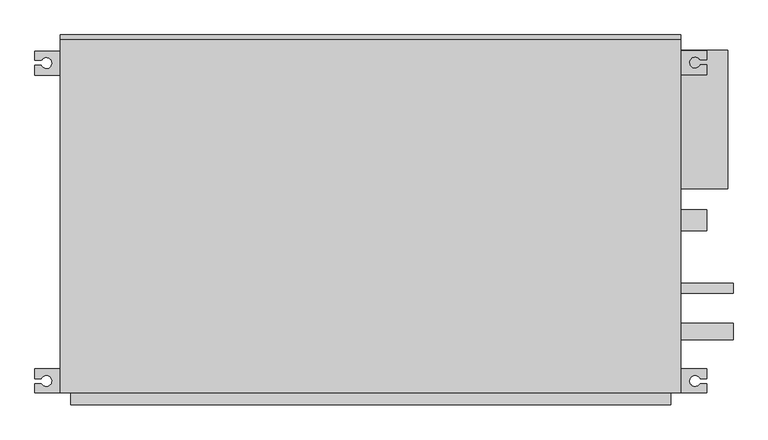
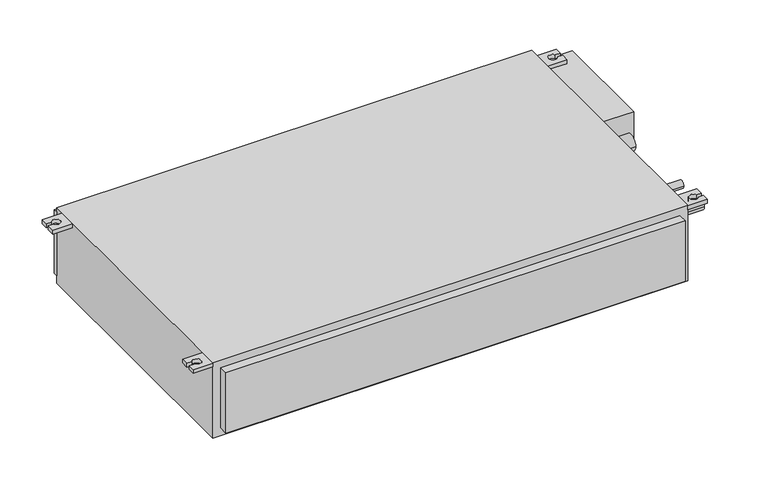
"""IFC4 building model written with IfcOpenShell, lengths in millimetres: proxy geometry, PEFY-P-NMSU-E_Low_Profile_Ducted : PEFY-P24NMSU-E."""

import ifcopenshell
import ifcopenshell.guid

model = None  # the IFC model being written
_history = None  # IfcOwnerHistory: only IFC2X3 demands one
_inside = {}  # id of a spatial element -> (the spatial element, [elements in it])
_under = {}  # id of a project, library or spatial element -> (it, [spatial elements below it])
_declared = {}  # id of a project -> (the project, [libraries it declares])
_typed = {}  # id of a type object -> (the type object, [elements of that type])
_made_of = {}  # id of a material, layer set ... -> (it, [elements and type objects made of it])


def new_model(schema):
    """Start an empty IFC model of exactly this schema.

    Asked for "IFC4X3", IfcOpenShell would pick the latest addendum, in which some entities
    have other attributes; the version numbers below select the first issue.
    IFC2X3 requires an IfcOwnerHistory on every rooted entity: one is made here for all.
    """
    global model, _history
    if schema == "IFC4X3":
        model = ifcopenshell.file(schema_version=(4, 3, 0, 0))
    else:
        model = ifcopenshell.file(schema=schema)
    _inside.clear()
    _under.clear()
    _declared.clear()
    _typed.clear()
    _made_of.clear()
    _history = None
    if model.schema == "IFC2X3":
        org = make("IfcOrganization", Name="unknown")
        user = make(
            "IfcPersonAndOrganization",
            ThePerson=make("IfcPerson", FamilyName="unknown"),
            TheOrganization=org,
        )
        app = make(
            "IfcApplication",
            ApplicationDeveloper=org,
            Version="unknown",
            ApplicationFullName="unknown",
            ApplicationIdentifier="unknown",
        )
        _history = make(
            "IfcOwnerHistory",
            OwningUser=user,
            OwningApplication=app,
            ChangeAction="ADDED",
            CreationDate=0,
        )
    return model


def make(cls, **values):
    """One entity of the class cls with the attributes given. An attribute that is None is left unset."""
    return model.create_entity(
        cls, **{name: value for name, value in values.items() if value is not None}
    )


def rooted(cls, **values):
    """An entity with a GlobalId (a new one), such as an element, a storey or a relation."""
    return make(cls, GlobalId=ifcopenshell.guid.new(), OwnerHistory=_history, **values)


def si_unit(unit_type, name, prefix=None):
    """IfcSIUnit, for example si_unit("LENGTHUNIT", "METRE", prefix="MILLI")."""
    return make("IfcSIUnit", UnitType=unit_type, Prefix=prefix, Name=name)


def assignment(units):
    """IfcUnitAssignment: the units of a project."""
    return None if units is None else make("IfcUnitAssignment", Units=units)


def point(xyz):
    """IfcCartesianPoint."""
    return None if xyz is None else make("IfcCartesianPoint", Coordinates=xyz)


def direction(xyz):
    """IfcDirection."""
    return None if xyz is None else make("IfcDirection", DirectionRatios=xyz)


def frame(location, z_axis=None, x_axis=None):
    """IfcAxis2Placement3D, a coordinate frame: its origin and axes. An axis left out is left unset."""
    return make(
        "IfcAxis2Placement3D",
        Location=point(location),
        Axis=direction(z_axis),
        RefDirection=direction(x_axis),
    )


def frame_2d(location, x_axis=None):
    """IfcAxis2Placement2D, a coordinate frame in the plane: its origin and x axis."""
    return make(
        "IfcAxis2Placement2D", Location=point(location), RefDirection=direction(x_axis)
    )


def origin():
    """The frame at (0, 0, 0) with its axes left unset."""
    return frame((0.0, 0.0, 0.0))


def origin_with_axes():
    """The frame at (0, 0, 0) with the z axis (0, 0, 1) and the x axis (1, 0, 0) written out."""
    return frame((0.0, 0.0, 0.0), z_axis=(0.0, 0.0, 1.0), x_axis=(1.0, 0.0, 0.0))


def place(relative_to, where):
    """IfcLocalPlacement: puts the frame where relative to a parent placement (None: the world)."""
    return make(
        "IfcLocalPlacement", PlacementRelTo=relative_to, RelativePlacement=where
    )


def context(
    kind, dimensions, precision=None, world=None, true_north=None, identifier=None
):
    """IfcGeometricRepresentationContext, for example the 3D "Model" context."""
    return make(
        "IfcGeometricRepresentationContext",
        ContextIdentifier=identifier,
        ContextType=kind,
        CoordinateSpaceDimension=dimensions,
        Precision=precision,
        WorldCoordinateSystem=world,
        TrueNorth=true_north,
    )


def project(units=None, contexts=None):
    """IfcProject with its units and contexts."""
    return rooted(
        "IfcProject",
        Name="project",
        RepresentationContexts=contexts,
        UnitsInContext=assignment(units),
    )


def spatial(cls, under=None, at=None, **own):
    """A site, building, storey or space (cls), placed at a placement, below another one or the project."""
    s = rooted(cls, ObjectPlacement=at, **own)
    if under is not None:
        _under.setdefault(under.id(), (under, []))[1].append(s)
    return s


def polyline(points):
    """IfcPolyline through the points."""
    return make("IfcPolyline", Points=[point(p) for p in points])


def circle_curve(where, radius):
    """IfcCircle in the frame where."""
    return make("IfcCircle", Position=where, Radius=radius)


def trimmed(basis, trim1, trim2, sense, master):
    """IfcTrimmedCurve: the piece of a basis curve between two trims."""
    return make(
        "IfcTrimmedCurve",
        BasisCurve=basis,
        Trim1=trim1,
        Trim2=trim2,
        SenseAgreement=sense,
        MasterRepresentation=master,
    )


def segment(curve, same_sense, transition):
    """IfcCompositeCurveSegment."""
    return make(
        "IfcCompositeCurveSegment",
        Transition=transition,
        SameSense=same_sense,
        ParentCurve=curve,
    )


def composite_curve(segments, self_intersect=None):
    """IfcCompositeCurve: segments joined end to end."""
    return make("IfcCompositeCurve", Segments=segments, SelfIntersect=self_intersect)


def outline(outer, holes=None, kind="AREA"):
    """IfcArbitraryClosedProfileDef: a profile drawn as a closed curve; with holes, ...WithVoids."""
    if holes is None:
        return make("IfcArbitraryClosedProfileDef", ProfileType=kind, OuterCurve=outer)
    return make(
        "IfcArbitraryProfileDefWithVoids",
        ProfileType=kind,
        OuterCurve=outer,
        InnerCurves=holes,
    )


def extrude(swept, where, along, depth):
    """IfcExtrudedAreaSolid: the profile swept, set in the frame where, extruded along a direction by depth."""
    return make(
        "IfcExtrudedAreaSolid",
        SweptArea=swept,
        Position=where,
        ExtrudedDirection=direction(along),
        Depth=depth,
    )


def shape(context_of_items, identifier, shape_type, items):
    """IfcShapeRepresentation: the items that make up one representation, for example the "Body"."""
    return make(
        "IfcShapeRepresentation",
        ContextOfItems=context_of_items,
        RepresentationIdentifier=identifier,
        RepresentationType=shape_type,
        Items=items,
    )


def source(mapping_origin, context_of_items, identifier, shape_type, items):
    """IfcRepresentationMap: a shape defined once, which mapped items show again and again."""
    return make(
        "IfcRepresentationMap",
        MappingOrigin=mapping_origin,
        MappedRepresentation=shape(context_of_items, identifier, shape_type, items),
    )


def transform(
    local_origin,
    x_axis=None,
    y_axis=None,
    z_axis=None,
    scale=None,
    scale2=None,
    scale3=None,
    uniform=True,
):
    """IfcCartesianTransformationOperator3D, or its non-uniform kind. x_axis, y_axis, z_axis: its Axis1, 2, 3."""
    if uniform:
        return make(
            "IfcCartesianTransformationOperator3D",
            Axis1=direction(x_axis),
            Axis2=direction(y_axis),
            LocalOrigin=point(local_origin),
            Scale=scale,
            Axis3=direction(z_axis),
        )
    return make(
        "IfcCartesianTransformationOperator3DnonUniform",
        Axis1=direction(x_axis),
        Axis2=direction(y_axis),
        LocalOrigin=point(local_origin),
        Scale=scale,
        Axis3=direction(z_axis),
        Scale2=scale2,
        Scale3=scale3,
    )


def mapped(mapping_source, mapping_target):
    """IfcMappedItem: shows the shape of a source again, moved by a transform."""
    return make(
        "IfcMappedItem", MappingSource=mapping_source, MappingTarget=mapping_target
    )


def made_of(thing, what):
    """Note that an element or type object is made of a material, layer set ...; save() writes the relation."""
    if what is not None:
        _made_of.setdefault(what.id(), (what, []))[1].append(thing)
    return thing


def element(
    cls,
    number,
    at=None,
    inside=None,
    cuts=None,
    type_object=None,
    material=None,
    context=None,
    identifier="Body",
    shape_type=None,
    held_by="IfcProductDefinitionShape",
    body=None,
    shapes=None,
    **own,
):
    """One element of the class cls, such as IfcWall. Its Tag is "e" and its number.

    at: its placement. inside: the storey or other place that contains it. cuts: it is an
    opening in that element (IfcRelVoidsElement). A single representation is given by context,
    identifier, shape_type and body (its items); several are given by shapes. held_by: the class
    of the entity that holds the representations. save() writes the other relations.
    """
    e = rooted(cls, Tag="e%d" % number, ObjectPlacement=at, **own)
    if body is not None:
        shapes = [shape(context, identifier, shape_type, body)]
    if shapes is not None:
        e.Representation = make(held_by, Representations=shapes)
    if inside is not None:
        _inside.setdefault(inside.id(), (inside, []))[1].append(e)
    if cuts is not None:
        rooted(
            "IfcRelVoidsElement", RelatingBuildingElement=cuts, RelatedOpeningElement=e
        )
    if type_object is not None:
        _typed.setdefault(type_object.id(), (type_object, []))[1].append(e)
    return made_of(e, material)


def aggregate(whole, parts):
    """IfcRelAggregates: a whole, such as a stair, and the parts it consists of."""
    return rooted("IfcRelAggregates", RelatingObject=whole, RelatedObjects=parts)


def save(model, path):
    """Write the relations noted so far, then the file.

    IfcRelAggregates (storeys below a building ...), IfcRelContainedInSpatialStructure (elements
    in a storey), IfcRelDefinesByType, IfcRelAssociatesMaterial and IfcRelDeclares: one each for
    every whole, place, type object, material and project.
    """
    for whole, parts in _under.values():
        aggregate(whole, parts)
    for where, things in _inside.values():
        rooted(
            "IfcRelContainedInSpatialStructure",
            RelatedElements=things,
            RelatingStructure=where,
        )
    for kind, things in _typed.values():
        rooted("IfcRelDefinesByType", RelatedObjects=things, RelatingType=kind)
    for what, things in _made_of.values():
        rooted("IfcRelAssociatesMaterial", RelatedObjects=things, RelatingMaterial=what)
    for by, libraries in _declared.values():
        rooted("IfcRelDeclares", RelatingContext=by, RelatedDefinitions=libraries)
    model.write(path)


def mechanical_equipment_2ac3c092(model_context):
    return source(origin(), model_context, "Body", "SweptSolid", [
        extrude(outline(composite_curve([segment(polyline([(-644.3, 282.0), (-644.3, 300.9759165), (-632.1454311, 300.9759165)]), True, "CONTINUOUS"), segment(trimmed(circle_curve(frame_2d((-622.2863556, 305.4254582)), 10.8166442), [point((-632.1454311, 300.9759165))], [point((-631.8387803, 310.5))], True, "CARTESIAN"), True, "CONTINUOUS"), segment(polyline([(-631.8387803, 310.5), (-644.3, 310.5), (-644.3, 328.0), (-595.3, 328.0), (-595.3, 282.0), (-644.3, 282.0)]), True, "CONTINUOUS")], self_intersect=False)), frame((0.0, 0.0, 188.55), z_axis=(0.0, 0.0, 1.0), x_axis=(1.0, 0.0, 0.0)), (0.0, 0.0, 1.0), 10.0),
        extrude(outline(composite_curve([segment(polyline([(-644.3, -281.0), (-595.3, -281.0), (-595.3, -327.0), (-644.3, -327.0), (-644.3, -309.5), (-631.8387803, -309.5)]), True, "CONTINUOUS"), segment(trimmed(circle_curve(frame_2d((-622.2863556, -304.4254582)), 10.8166442), [point((-631.8387803, -309.5))], [point((-632.1454311, -299.9759165))], True, "CARTESIAN"), True, "CONTINUOUS"), segment(polyline([(-632.1454311, -299.9759165), (-644.3, -299.9759165), (-644.3, -281.0)]), True, "CONTINUOUS")], self_intersect=False)), frame((0.0, 0.0, 188.55), z_axis=(0.0, 0.0, 1.0), x_axis=(1.0, 0.0, 0.0)), (0.0, 0.0, 1.0), 10.0),
        extrude(outline(composite_curve([segment(polyline([(644.3, 282.9429009), (595.3, 282.9429009), (595.3, 328.9429009), (644.3, 328.9429009), (644.3, 311.4429009), (631.8387803, 311.4429009)]), True, "CONTINUOUS"), segment(trimmed(circle_curve(frame_2d((622.2863556, 306.3683591)), 10.8166442), [point((631.8387803, 311.4429009))], [point((632.1454311, 301.9188174))], True, "CARTESIAN"), True, "CONTINUOUS"), segment(polyline([(632.1454311, 301.9188174), (644.3, 301.9188174), (644.3, 282.9429009)]), True, "CONTINUOUS")], self_intersect=False)), frame((0.0, 0.0, 188.55), z_axis=(0.0, 0.0, 1.0), x_axis=(1.0, 0.0, 0.0)), (0.0, 0.0, 1.0), 10.0),
        extrude(outline(composite_curve([segment(polyline([(644.3, -281.0), (644.3, -299.9759165), (632.1454311, -299.9759165)]), True, "CONTINUOUS"), segment(trimmed(circle_curve(frame_2d((622.2863556, -304.4254582)), 10.8166442), [point((632.1454311, -299.9759165))], [point((631.8387803, -309.5))], True, "CARTESIAN"), True, "CONTINUOUS"), segment(polyline([(631.8387803, -309.5), (644.3, -309.5), (644.3, -327.0), (595.3, -327.0), (595.3, -281.0), (644.3, -281.0)]), True, "CONTINUOUS")], self_intersect=False)), frame((0.0, 0.0, 188.55), z_axis=(0.0, 0.0, 1.0), x_axis=(1.0, 0.0, 0.0)), (0.0, 0.0, 1.0), 10.0),
        extrude(outline(polyline([(595.3, 350.04375), (-595.3, 350.04375), (-595.3, 359.5477547), (595.3, 359.5477547), (595.3, 350.04375)])), frame((0.0, 0.0, 20.0), z_axis=(0.0, 0.0, 1.0), x_axis=(1.0, 0.0, 0.0)), (0.0, 0.0, 1.0), 168.55),
        extrude(outline(composite_curve([segment(trimmed(circle_curve(frame_2d((4.0570991, 59.8)), 20.0), [point((-15.9429009, 59.8))], [point((24.0570991, 59.8))], False, "CARTESIAN"), True, "CONTINUOUS"), segment(trimmed(circle_curve(frame_2d((4.0570991, 59.8)), 20.0), [point((24.0570991, 59.8))], [point((-15.9429009, 59.8))], False, "CARTESIAN"), True, "CONTINUOUS")], self_intersect=False)), frame((595.3, 0.0, 0.0), z_axis=(1.0, 0.0, 0.0), x_axis=(0.0, 1.0, 0.0)), (0.0, 0.0, 1.0), 26.9863556),
        extrude(outline(composite_curve([segment(trimmed(circle_curve(frame_2d((4.0570991, 149.6)), 20.0), [point((-15.9429009, 149.6))], [point((24.0570991, 149.6))], False, "CARTESIAN"), True, "CONTINUOUS"), segment(trimmed(circle_curve(frame_2d((4.0570991, 149.6)), 20.0), [point((24.0570991, 149.6))], [point((-15.9429009, 149.6))], False, "CARTESIAN"), True, "CONTINUOUS")], self_intersect=False)), frame((595.3, 0.0, 0.0), z_axis=(1.0, 0.0, 0.0), x_axis=(0.0, 1.0, 0.0)), (0.0, 0.0, 1.0), 49.0),
        extrude(outline(composite_curve([segment(trimmed(circle_curve(frame_2d((-126.5596979, 100.0)), 9.5), [point((-136.0596979, 100.0))], [point((-117.0596979, 100.0))], False, "CARTESIAN"), True, "CONTINUOUS"), segment(trimmed(circle_curve(frame_2d((-126.5596979, 100.0)), 9.5), [point((-117.0596979, 100.0))], [point((-136.0596979, 100.0))], False, "CARTESIAN"), True, "CONTINUOUS")], self_intersect=False)), frame((595.3, 0.0, 0.0), z_axis=(1.0, 0.0, 0.0), x_axis=(0.0, 1.0, 0.0)), (0.0, 0.0, 1.0), 100.0),
        extrude(outline(composite_curve([segment(trimmed(circle_curve(frame_2d((-209.7540575, 100.0)), 15.9), [point((-225.6540575, 100.0))], [point((-193.8540575, 100.0))], False, "CARTESIAN"), True, "CONTINUOUS"), segment(trimmed(circle_curve(frame_2d((-209.7540575, 100.0)), 15.9), [point((-193.8540575, 100.0))], [point((-225.6540575, 100.0))], False, "CARTESIAN"), True, "CONTINUOUS")], self_intersect=False)), frame((595.3, 0.0, 0.0), z_axis=(1.0, 0.0, 0.0), x_axis=(0.0, 1.0, 0.0)), (0.0, 0.0, 1.0), 100.0),
        extrude(outline(polyline([(685.3, 330.0), (685.3, 64.0570991), (595.3, 64.0570991), (595.3, 330.0), (685.3, 330.0)])), frame((0.0, 0.0, 20.0), z_axis=(0.0, 0.0, 1.0), x_axis=(1.0, 0.0, 0.0)), (0.0, 0.0, 1.0), 159.8),
        extrude(outline(polyline([(575.3, -350.04375), (-575.3, -350.04375), (-575.3, -327.0), (575.3, -327.0), (575.3, -350.04375)])), frame((0.0, 0.0, 20.0), z_axis=(0.0, 0.0, 1.0), x_axis=(1.0, 0.0, 0.0)), (0.0, 0.0, 1.0), 159.8),
        extrude(outline(polyline([(-595.3, -327.0), (-595.3, 350.04375), (595.3, 350.04375), (595.3, -327.0), (-595.3, -327.0)])), origin_with_axes(), (0.0, 0.0, 1.0), 200.0),
    ])


if __name__ == "__main__":
    model = new_model("IFC4")
    model_context = context("Model", 3, world=origin())
    ifc_project = project(units=[si_unit("LENGTHUNIT", "METRE", prefix="MILLI")], contexts=[model_context])
    site = spatial("IfcSite", under=ifc_project)
    building = spatial("IfcBuilding", under=site)
    placement = place(None, origin())
    mechanical_equipment_shape = mechanical_equipment_2ac3c092(model_context)
    element("IfcBuildingElementProxy", 1, Name="PEFY-P-NMSU-E_Low_Profile_Ducted : PEFY-P24NMSU-E", ObjectType="PEFY-P-NMSU-E_Low_Profile_Ducted : PEFY-P24NMSU-E", at=placement, inside=building, context=model_context, shape_type="MappedRepresentation", body=[
        mapped(mechanical_equipment_shape, transform((0.0, 0.0, 0.0), x_axis=(1.0, 0.0, 0.0), y_axis=(0.0, 1.0, 0.0), z_axis=(0.0, 0.0, 1.0))),
    ])
    save(model, "model.ifc")
